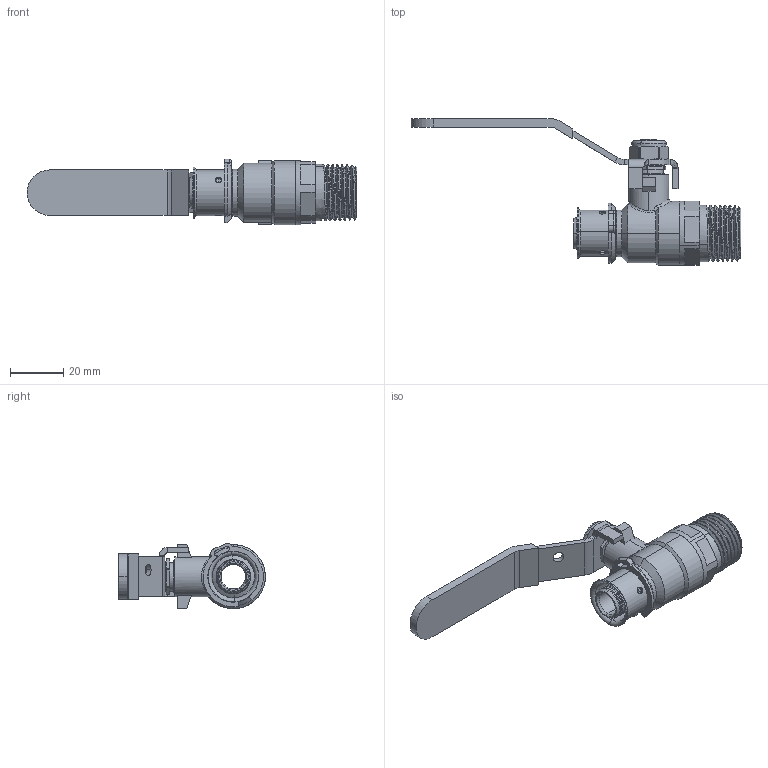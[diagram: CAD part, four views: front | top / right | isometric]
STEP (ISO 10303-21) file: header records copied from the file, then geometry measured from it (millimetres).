
FILE_DESCRIPTION (( 'STEP AP203' ), '1' );
FILE_NAME ('150-733G.STEP', '2026-05-15T01:57:27', ( '' ), ( '' ), 'SwSTEP 2.0', 'SolidWorks 2014', '' );
FILE_SCHEMA (( 'CONFIG_CONTROL_DESIGN' ));
Length unit declared in the file: millimetre
Products named in the file (13): 2PP050俋蹟恇裔; 11沓蹋; 5.5x1.5(O型圈); 050概极; M8滅侂蹟譫; 15密封圈; 17球; 050詩杶; 050忒梟; 29b概裝; 150-733G; 3347塑料限位圈050; M12ѹñ
Assembly tree (13 placements, depth 2):
  150-733G
    050概极
    M8滅侂蹟譫
    11沓蹋
    17球
    29b概裝
    3347塑料限位圈050
    5.5x1.5(O型圈)
    15密封圈  x2
    M12ѹñ
    050忒梟
    050詩杶
    2PP050俋蹟恇裔
Bounding box: 123.6 x 54.98 x 24.5 mm (x, y, z)
Volume: 20276.4 mm3; surface area: 21432.5 mm2
Topology: 13 solids, 13 shells, 626 faces, 1580 edges, 991 vertices
Faces by surface type: cylinder 221, plane 162, cone 112, bspline 83, torus 46, sphere 2
Entity records: 47083 total; most frequent: CARTESIAN_POINT 31804, ORIENTED_EDGE 3100, DIRECTION 2703, EDGE_CURVE 1550, AXIS2_PLACEMENT_3D 1077, VERTEX_POINT 975, EDGE_LOOP 665, FACE_OUTER_BOUND 616
